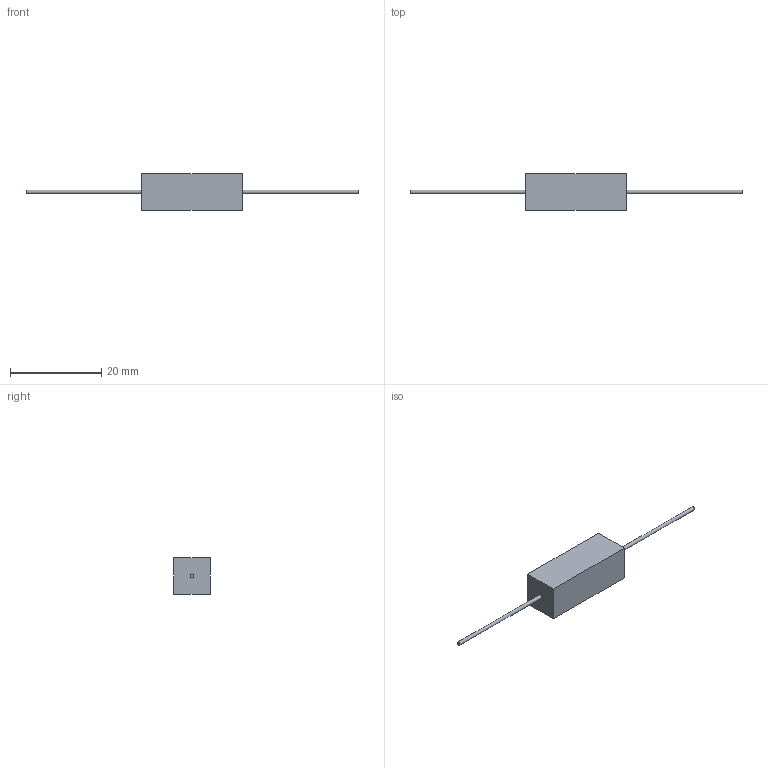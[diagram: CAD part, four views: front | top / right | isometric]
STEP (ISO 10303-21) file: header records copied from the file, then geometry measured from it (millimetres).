
FILE_DESCRIPTION(/* description */ (''),/* implementation_level */ '2;1');
FILE_NAME(/* name */ 'C:\Users\mulla\Documents\SEI Models\Inventor Files\CB\CB3_stp.stp',/* time_stamp */ '2019-06-27T14:44:31-04:00',/* author */ ('mulla'),/* organization */ (''),/* preprocessor_version */ 'ST-DEVELOPER v16.1',/* originating_system */ 'Autodesk Inventor 2016',/* authorisation */ '');
FILE_SCHEMA (('AUTOMOTIVE_DESIGN { 1 0 10303 214 3 1 1 }'));
Length unit declared in the file: millimetre
Products named in the file (1): CB3
Bounding box: 72.8 x 8 x 8 mm (x, y, z)
Volume: 1433.5 mm3; surface area: 961.7 mm2
Topology: 3 solids, 3 shells, 12 faces, 18 edges, 12 vertices
Faces by surface type: plane 10, cylinder 2
Full cylindrical faces by diameter (mm): 0.8 x2
Entity records: 278 total; most frequent: DIRECTION 46, CARTESIAN_POINT 41, ORIENTED_EDGE 32, AXIS2_PLACEMENT_3D 17, EDGE_CURVE 16, EDGE_LOOP 14, FACE_OUTER_BOUND 12, LINE 12
